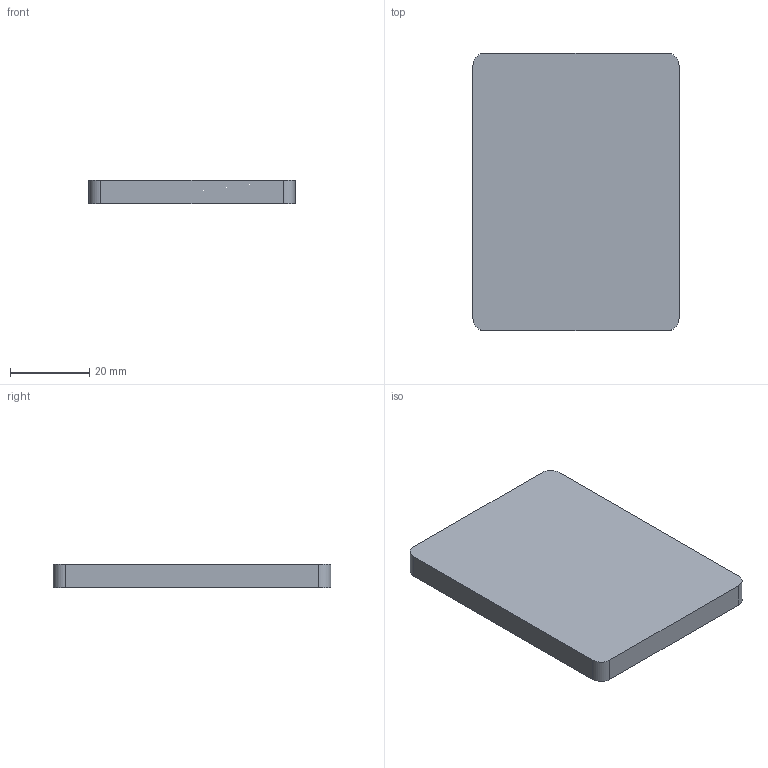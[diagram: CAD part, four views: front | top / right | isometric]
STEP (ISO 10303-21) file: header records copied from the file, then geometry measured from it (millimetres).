
FILE_DESCRIPTION(('Open CASCADE Model'),'2;1');
FILE_NAME('Open CASCADE Shape Model','2026-09-08T13:32:10',('Author'),( 'Open CASCADE'),'Open CASCADE STEP processor 7.7','Open CASCADE 7.7' ,'Unknown');
FILE_SCHEMA(('AUTOMOTIVE_DESIGN { 1 0 10303 214 1 1 1 1 }'));
Length unit declared in the file: millimetre
Products named in the file (1): Open CASCADE STEP translator 7.7 42
Bounding box: 52 x 70 x 6 mm (x, y, z)
Volume: 21793.6 mm3; surface area: 8697.6 mm2
Topology: 1 solids, 1 shells, 10 faces, 24 edges, 16 vertices
Faces by surface type: plane 6, cylinder 4
Entity records: 630 total; most frequent: CARTESIAN_POINT 123, DIRECTION 98, LINE 56, VECTOR 56, ORIENTED_EDGE 48, PCURVE 48, DEFINITIONAL_REPRESENTATION 48, EDGE_CURVE 24
